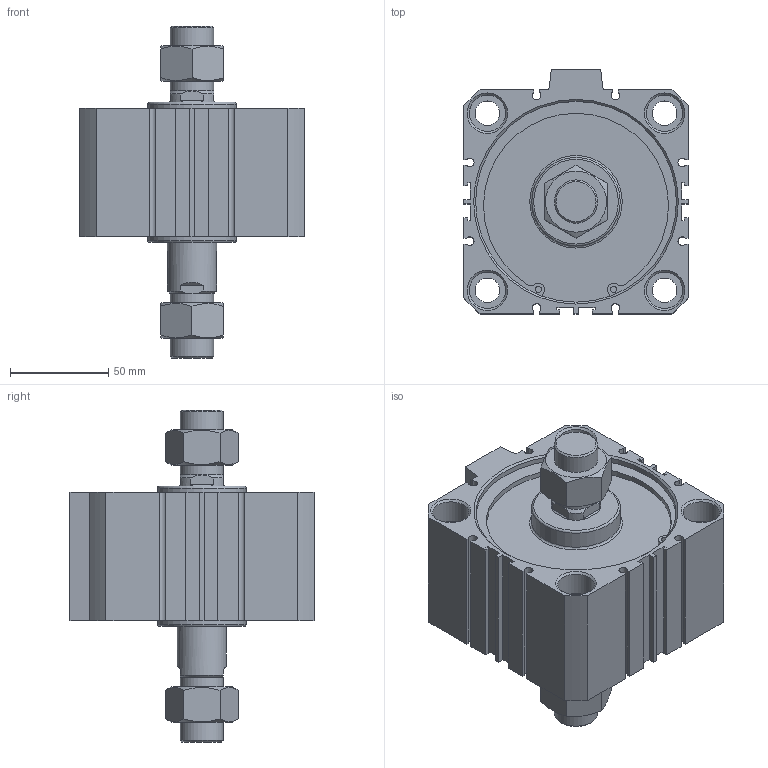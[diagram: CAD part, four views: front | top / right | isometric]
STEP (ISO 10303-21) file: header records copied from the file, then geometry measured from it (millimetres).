
FILE_DESCRIPTION((''),'2;1');
FILE_NAME('I:\3D電子目錄\氣缸\JDD\JDD-B\JDD100-B\JDD100x20-B.stp','2007-02-27T13:22:18',('662F206'),(''),'Autodesk Inventor 10','Autodesk Inventor 10','');
FILE_SCHEMA(('AUTOMOTIVE_DESIGN { 1 0 10303 214 1 1 1 1 }'));
Length unit declared in the file: millimetre
Products named in the file (3): JDD100-B; R 形環 100
Assembly tree (3 placements, depth 2):
  JDD100-B
    JDD100-B
    R 形環 100  x2
Bounding box: 114 x 124 x 168.7 mm (x, y, z)
Volume: 755587.2 mm3; surface area: 107609.9 mm2
Topology: 3 solids, 3 shells, 219 faces, 538 edges, 351 vertices
Faces by surface type: plane 130, cylinder 59, cone 26, bspline 2, torus 2
Full cylindrical faces by diameter (mm): 3.1 x4, 3.5 x2, 12.5 x4, 18.5 x8, 22 x4, 25 x1, 45 x2, 102 x4, 106 x2
Entity records: 5905 total; most frequent: CARTESIAN_POINT 1143, DIRECTION 978, ORIENTED_EDGE 894, EDGE_CURVE 447, AXIS2_PLACEMENT_3D 356, VERTEX_POINT 323, EDGE_LOOP 298, VECTOR 266
